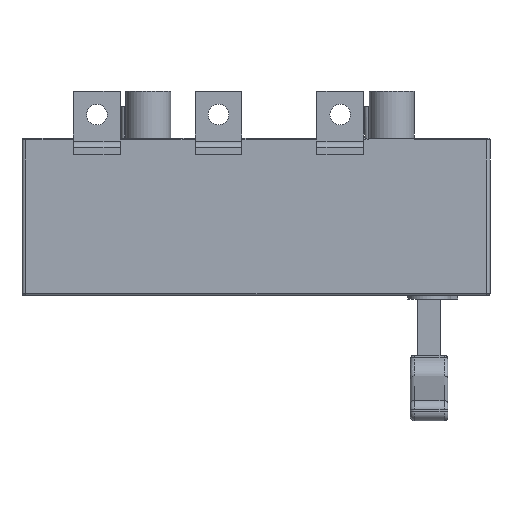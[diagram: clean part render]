
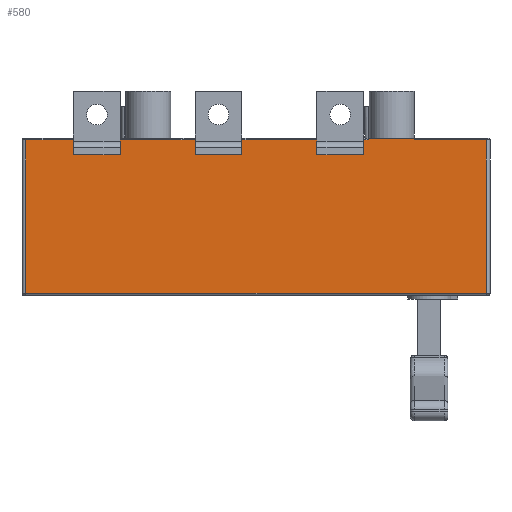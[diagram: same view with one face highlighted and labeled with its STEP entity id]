
A CAD part, front view. The second image highlights one B-rep face of the part: STEP entity #580.
In plain terms, the highlighted planar face has unit normal (0, -1, 0).
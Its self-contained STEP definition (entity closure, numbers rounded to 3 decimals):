
#178=PLANE('',#5078);
#580=ADVANCED_FACE('',(#890),#178,.T.);
#890=FACE_OUTER_BOUND('',#1225,.T.);
#1225=EDGE_LOOP('',(#2671,#2672,#2673,#2674,#2675,#2676,#2677,#2678,#2679,
#2680,#2681,#2682,#2683,#2684,#2685,#2686,#2687,#2688,#2689,#2690,#2691,
#2692,#2693,#2694,#2695,#2696,#2697,#2698));
#2671=ORIENTED_EDGE('',*,*,#3283,.F.);
#2672=ORIENTED_EDGE('',*,*,#3302,.F.);
#2673=ORIENTED_EDGE('',*,*,#3809,.T.);
#2674=ORIENTED_EDGE('',*,*,#3802,.T.);
#2675=ORIENTED_EDGE('',*,*,#3640,.F.);
#2676=ORIENTED_EDGE('',*,*,#3630,.T.);
#2677=ORIENTED_EDGE('',*,*,#3639,.T.);
#2678=ORIENTED_EDGE('',*,*,#3600,.T.);
#2679=ORIENTED_EDGE('',*,*,#3764,.T.);
#2680=ORIENTED_EDGE('',*,*,#3757,.F.);
#2681=ORIENTED_EDGE('',*,*,#3693,.F.);
#2682=ORIENTED_EDGE('',*,*,#3775,.T.);
#2683=ORIENTED_EDGE('',*,*,#3706,.T.);
#2684=ORIENTED_EDGE('',*,*,#3793,.T.);
#2685=ORIENTED_EDGE('',*,*,#3556,.F.);
#2686=ORIENTED_EDGE('',*,*,#3221,.T.);
#2687=ORIENTED_EDGE('',*,*,#3197,.T.);
#2688=ORIENTED_EDGE('',*,*,#3222,.T.);
#2689=ORIENTED_EDGE('',*,*,#3561,.T.);
#2690=ORIENTED_EDGE('',*,*,#3796,.T.);
#2691=ORIENTED_EDGE('',*,*,#3810,.F.);
#2692=ORIENTED_EDGE('',*,*,#3251,.F.);
#2693=ORIENTED_EDGE('',*,*,#3240,.F.);
#2694=ORIENTED_EDGE('',*,*,#3259,.F.);
#2695=ORIENTED_EDGE('',*,*,#3811,.T.);
#2696=ORIENTED_EDGE('',*,*,#3799,.T.);
#2697=ORIENTED_EDGE('',*,*,#3812,.F.);
#2698=ORIENTED_EDGE('',*,*,#3294,.F.);
#2773=VERTEX_POINT('',#6522);
#2776=VERTEX_POINT('',#6528);
#2778=VERTEX_POINT('',#6534);
#2779=VERTEX_POINT('',#6535);
#2805=VERTEX_POINT('',#6611);
#2808=VERTEX_POINT('',#6617);
#2810=VERTEX_POINT('',#6623);
#2811=VERTEX_POINT('',#6624);
#2837=VERTEX_POINT('',#6700);
#2840=VERTEX_POINT('',#6706);
#2842=VERTEX_POINT('',#6712);
#2843=VERTEX_POINT('',#6713);
#3017=VERTEX_POINT('',#7287);
#3020=VERTEX_POINT('',#7295);
#3048=VERTEX_POINT('',#7387);
#3049=VERTEX_POINT('',#7392);
#3057=VERTEX_POINT('',#7428);
#3067=VERTEX_POINT('',#7470);
#3071=VERTEX_POINT('',#7512);
#3119=VERTEX_POINT('',#7657);
#3120=VERTEX_POINT('',#7659);
#3127=VERTEX_POINT('',#7689);
#3130=VERTEX_POINT('',#7706);
#3165=VERTEX_POINT('',#7808);
#3173=VERTEX_POINT('',#7878);
#3175=VERTEX_POINT('',#7884);
#3176=VERTEX_POINT('',#7886);
#3178=VERTEX_POINT('',#7892);
#3197=EDGE_CURVE('',#2778,#2779,#3826,.T.);
#3221=EDGE_CURVE('',#2776,#2778,#3846,.T.);
#3222=EDGE_CURVE('',#2779,#2773,#3847,.T.);
#3240=EDGE_CURVE('',#2810,#2811,#3857,.T.);
#3251=EDGE_CURVE('',#2811,#2808,#3866,.T.);
#3259=EDGE_CURVE('',#2805,#2810,#3874,.T.);
#3283=EDGE_CURVE('',#2842,#2843,#3888,.T.);
#3294=EDGE_CURVE('',#2843,#2840,#3897,.T.);
#3302=EDGE_CURVE('',#2837,#2842,#3905,.T.);
#3556=EDGE_CURVE('',#2776,#3017,#4046,.T.);
#3561=EDGE_CURVE('',#2773,#3020,#4049,.T.);
#3600=EDGE_CURVE('',#3048,#3049,#4068,.T.);
#3630=EDGE_CURVE('',#3071,#3067,#4077,.T.);
#3639=EDGE_CURVE('',#3067,#3048,#4082,.T.);
#3640=EDGE_CURVE('',#3071,#3057,#4083,.T.);
#3693=EDGE_CURVE('',#3119,#3120,#4105,.T.);
#3706=EDGE_CURVE('',#3127,#3130,#4112,.T.);
#3757=EDGE_CURVE('',#3120,#3165,#4144,.T.);
#3764=EDGE_CURVE('',#3049,#3165,#4150,.T.);
#3775=EDGE_CURVE('',#3119,#3127,#4160,.T.);
#3793=EDGE_CURVE('',#3130,#3017,#4178,.T.);
#3796=EDGE_CURVE('',#3020,#3173,#4180,.T.);
#3799=EDGE_CURVE('',#3176,#3175,#4182,.T.);
#3802=EDGE_CURVE('',#3178,#3057,#4184,.T.);
#3809=EDGE_CURVE('',#2837,#3178,#4190,.T.);
#3810=EDGE_CURVE('',#2808,#3173,#4191,.T.);
#3811=EDGE_CURVE('',#2805,#3176,#4192,.T.);
#3812=EDGE_CURVE('',#2840,#3175,#4193,.T.);
#3826=LINE('',#6533,#4207);
#3846=LINE('',#6582,#4227);
#3847=LINE('',#6584,#4228);
#3857=LINE('',#6622,#4238);
#3866=LINE('',#6646,#4247);
#3874=LINE('',#6661,#4255);
#3888=LINE('',#6711,#4269);
#3897=LINE('',#6735,#4278);
#3905=LINE('',#6750,#4286);
#4046=LINE('',#7286,#4427);
#4049=LINE('',#7296,#4430);
#4068=LINE('',#7394,#4449);
#4077=LINE('',#7515,#4458);
#4082=LINE('',#7532,#4463);
#4083=LINE('',#7534,#4464);
#4105=LINE('',#7658,#4486);
#4112=LINE('',#7707,#4493);
#4144=LINE('',#7807,#4525);
#4150=LINE('',#7819,#4531);
#4160=LINE('',#7839,#4541);
#4178=LINE('',#7873,#4559);
#4180=LINE('',#7879,#4561);
#4182=LINE('',#7885,#4563);
#4184=LINE('',#7891,#4565);
#4190=LINE('',#7902,#4571);
#4191=LINE('',#7903,#4572);
#4192=LINE('',#7904,#4573);
#4193=LINE('',#7905,#4574);
#4207=VECTOR('',#5124,1.);
#4227=VECTOR('',#5170,1.);
#4228=VECTOR('',#5173,1.);
#4238=VECTOR('',#5207,1.);
#4247=VECTOR('',#5230,1.);
#4255=VECTOR('',#5244,1.);
#4269=VECTOR('',#5290,1.);
#4278=VECTOR('',#5313,1.);
#4286=VECTOR('',#5327,1.);
#4427=VECTOR('',#5908,1.);
#4430=VECTOR('',#5917,1.);
#4449=VECTOR('',#6002,1.);
#4458=VECTOR('',#6063,1.);
#4463=VECTOR('',#6086,1.);
#4464=VECTOR('',#6089,1.);
#4486=VECTOR('',#6227,1.);
#4493=VECTOR('',#6248,1.);
#4525=VECTOR('',#6348,1.);
#4531=VECTOR('',#6360,1.);
#4541=VECTOR('',#6382,1.);
#4559=VECTOR('',#6432,1.);
#4561=VECTOR('',#6438,1.);
#4563=VECTOR('',#6444,1.);
#4565=VECTOR('',#6450,1.);
#4571=VECTOR('',#6462,1.);
#4572=VECTOR('',#6463,1.);
#4573=VECTOR('',#6464,1.);
#4574=VECTOR('',#6465,1.);
#5078=AXIS2_PLACEMENT_3D('',#7906,#6466,#6467);
#5124=DIRECTION('',(-1.,0.,0.));
#5170=DIRECTION('',(0.,0.,-1.));
#5173=DIRECTION('',(0.,0.,1.));
#5207=DIRECTION('',(1.,0.,0.));
#5230=DIRECTION('',(0.,0.,1.));
#5244=DIRECTION('',(0.,0.,-1.));
#5290=DIRECTION('',(1.,0.,0.));
#5313=DIRECTION('',(0.,0.,1.));
#5327=DIRECTION('',(0.,0.,-1.));
#5908=DIRECTION('',(0.,0.,1.));
#5917=DIRECTION('',(0.,0.,1.));
#6002=DIRECTION('',(-1.,0.,0.));
#6063=DIRECTION('',(1.,0.,0.));
#6086=DIRECTION('',(0.,0.,1.));
#6089=DIRECTION('',(0.,0.,1.));
#6227=DIRECTION('',(0.,0.,-1.));
#6248=DIRECTION('',(0.,0.,-1.));
#6348=DIRECTION('',(1.,0.,0.));
#6360=DIRECTION('',(0.,0.,1.));
#6382=DIRECTION('',(-1.,0.,0.));
#6432=DIRECTION('',(-1.,0.,0.));
#6438=DIRECTION('',(-1.,0.,0.));
#6444=DIRECTION('',(-1.,0.,0.));
#6450=DIRECTION('',(-1.,0.,0.));
#6462=DIRECTION('',(0.,0.,1.));
#6463=DIRECTION('',(0.,0.,1.));
#6464=DIRECTION('',(0.,0.,1.));
#6465=DIRECTION('',(0.,0.,1.));
#6466=DIRECTION('',(0.,-1.,0.));
#6467=DIRECTION('',(1.,0.,0.));
#6522=CARTESIAN_POINT('',(-40.,-52.5,-5.));
#6528=CARTESIAN_POINT('',(-15.,-52.5,-5.));
#6533=CARTESIAN_POINT('',(-15.,-52.5,-9.));
#6534=CARTESIAN_POINT('',(-15.,-52.5,-9.));
#6535=CARTESIAN_POINT('',(-40.,-52.5,-9.));
#6582=CARTESIAN_POINT('',(-15.,-52.5,-9.));
#6584=CARTESIAN_POINT('',(-40.,-52.5,-9.));
#6611=CARTESIAN_POINT('',(-105.,-52.5,-5.));
#6617=CARTESIAN_POINT('',(-80.,-52.5,-5.));
#6622=CARTESIAN_POINT('',(-80.,-52.5,-9.));
#6623=CARTESIAN_POINT('',(-105.,-52.5,-9.));
#6624=CARTESIAN_POINT('',(-80.,-52.5,-9.));
#6646=CARTESIAN_POINT('',(-80.,-52.5,-9.));
#6661=CARTESIAN_POINT('',(-105.,-52.5,-9.));
#6700=CARTESIAN_POINT('',(-170.,-52.5,-5.));
#6706=CARTESIAN_POINT('',(-145.,-52.5,-5.));
#6711=CARTESIAN_POINT('',(-145.,-52.5,-9.));
#6712=CARTESIAN_POINT('',(-170.,-52.5,-9.));
#6713=CARTESIAN_POINT('',(-145.,-52.5,-9.));
#6735=CARTESIAN_POINT('',(-145.,-52.5,-9.));
#6750=CARTESIAN_POINT('',(-170.,-52.5,-9.));
#7286=CARTESIAN_POINT('',(-15.,-52.5,-9.));
#7287=CARTESIAN_POINT('',(-15.,-52.5,-1.));
#7295=CARTESIAN_POINT('',(-40.,-52.5,-1.));
#7296=CARTESIAN_POINT('',(-40.,-52.5,-9.));
#7387=CARTESIAN_POINT('',(50.5,-52.5,-1.));
#7392=CARTESIAN_POINT('',(12.,-52.5,-1.));
#7394=CARTESIAN_POINT('',(12.,-52.5,-1.));
#7428=CARTESIAN_POINT('',(-195.5,-52.5,-1.));
#7470=CARTESIAN_POINT('',(50.5,-52.5,-83.));
#7512=CARTESIAN_POINT('',(-195.5,-52.5,-83.));
#7515=CARTESIAN_POINT('',(-12.,-52.5,-83.));
#7532=CARTESIAN_POINT('',(50.5,-52.5,-84.));
#7534=CARTESIAN_POINT('',(-195.5,-52.5,-84.));
#7657=CARTESIAN_POINT('',(-12.,-52.5,17.));
#7658=CARTESIAN_POINT('',(-12.,-52.5,25.));
#7659=CARTESIAN_POINT('',(-12.,-52.5,0.));
#7689=CARTESIAN_POINT('',(-12.5,-52.5,17.));
#7706=CARTESIAN_POINT('',(-12.5,-52.5,-1.));
#7707=CARTESIAN_POINT('',(-12.5,-52.5,4.));
#7807=CARTESIAN_POINT('',(50.5,-52.5,0.));
#7808=CARTESIAN_POINT('',(12.,-52.5,0.));
#7819=CARTESIAN_POINT('',(12.,-52.5,4.));
#7839=CARTESIAN_POINT('',(7.5,-52.5,17.));
#7873=CARTESIAN_POINT('',(-195.5,-52.5,-1.));
#7878=CARTESIAN_POINT('',(-80.,-52.5,-1.));
#7879=CARTESIAN_POINT('',(-195.5,-52.5,-1.));
#7884=CARTESIAN_POINT('',(-145.,-52.5,-1.));
#7885=CARTESIAN_POINT('',(-195.5,-52.5,-1.));
#7886=CARTESIAN_POINT('',(-105.,-52.5,-1.));
#7891=CARTESIAN_POINT('',(-195.5,-52.5,-1.));
#7892=CARTESIAN_POINT('',(-170.,-52.5,-1.));
#7902=CARTESIAN_POINT('',(-170.,-52.5,-9.));
#7903=CARTESIAN_POINT('',(-80.,-52.5,-9.));
#7904=CARTESIAN_POINT('',(-105.,-52.5,-9.));
#7905=CARTESIAN_POINT('',(-145.,-52.5,-9.));
#7906=CARTESIAN_POINT('',(-12.,-52.5,4.));
